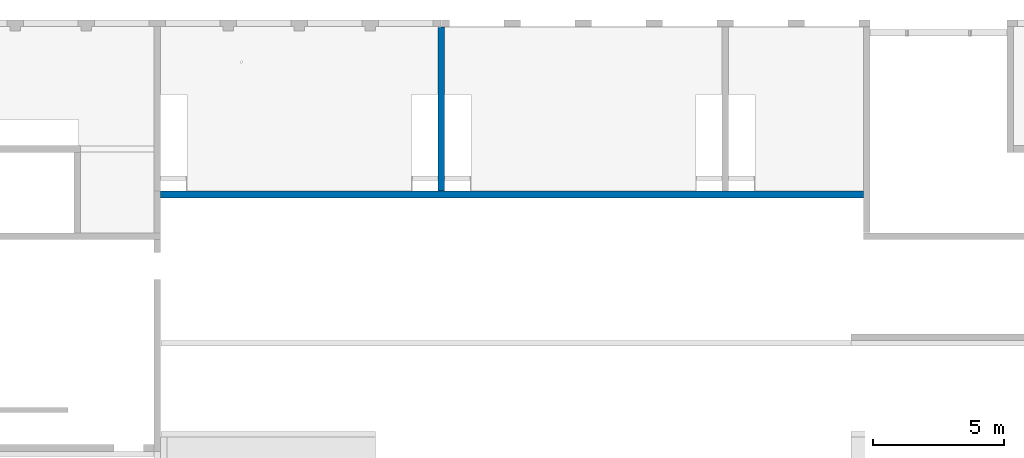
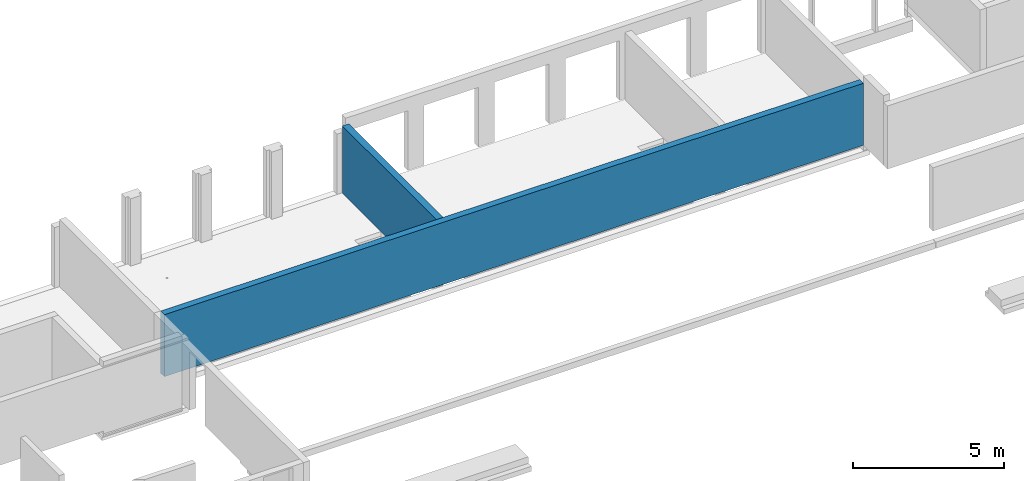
# One storey, part 11 of 18: 2 walls.
"""IFC2X3 building model written with IfcOpenShell, lengths in millimetres."""

from ifc_helpers import new_model, entity, si_unit, converted_unit, derived_unit, direction, frame, frame_2d, origin, place, context, subcontext, project, spatial, polyline, rectangle, extrude, clip, bounded_halfspace, material, layer, layer_set, layer_usage, type_object, element, save


model = new_model("IFC2X3")

# Units and contexts
model_context = context("Model", 3, precision=0.01, world=origin(), true_north=direction((6.12303176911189e-17, 1.0)))
body_context = subcontext(model_context, "Body", "Model", "MODEL_VIEW")
ifc_project = project(units=[si_unit("LENGTHUNIT", "METRE", prefix="MILLI"), si_unit("AREAUNIT", "SQUARE_METRE"), si_unit("VOLUMEUNIT", "CUBIC_METRE"), converted_unit("PLANEANGLEUNIT", "DEGREE", entity("IfcRatioMeasure", 0.0174532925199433), si_unit("PLANEANGLEUNIT", "RADIAN"), dimensions=[0, 0, 0, 0, 0, 0, 0]), si_unit("MASSUNIT", "GRAM", prefix="KILO"), derived_unit("MASSDENSITYUNIT", [(si_unit("MASSUNIT", "GRAM", prefix="KILO"), 1), (si_unit("LENGTHUNIT", "METRE"), -3)]), si_unit("TIMEUNIT", "SECOND"), si_unit("FREQUENCYUNIT", "HERTZ"), si_unit("THERMODYNAMICTEMPERATUREUNIT", "DEGREE_CELSIUS"), derived_unit("THERMALTRANSMITTANCEUNIT", [(si_unit("MASSUNIT", "GRAM", prefix="KILO"), 1), (si_unit("THERMODYNAMICTEMPERATUREUNIT", "KELVIN"), -1), (si_unit("TIMEUNIT", "SECOND"), -3)]), derived_unit("VOLUMETRICFLOWRATEUNIT", [(si_unit("LENGTHUNIT", "METRE"), 3), (si_unit("TIMEUNIT", "SECOND"), -1)]), si_unit("ELECTRICCURRENTUNIT", "AMPERE"), si_unit("ELECTRICVOLTAGEUNIT", "VOLT"), si_unit("POWERUNIT", "WATT"), si_unit("FORCEUNIT", "NEWTON", prefix="KILO"), si_unit("ILLUMINANCEUNIT", "LUX"), si_unit("LUMINOUSFLUXUNIT", "LUMEN"), si_unit("LUMINOUSINTENSITYUNIT", "CANDELA"), derived_unit("USERDEFINED", [(si_unit("MASSUNIT", "GRAM", prefix="KILO"), -1), (si_unit("LENGTHUNIT", "METRE"), -2), (si_unit("TIMEUNIT", "SECOND"), 3), (si_unit("LUMINOUSFLUXUNIT", "LUMEN"), 1)]), derived_unit("LINEARVELOCITYUNIT", [(si_unit("LENGTHUNIT", "METRE"), 1), (si_unit("TIMEUNIT", "SECOND"), -1)]), si_unit("PRESSUREUNIT", "PASCAL"), derived_unit("USERDEFINED", [(si_unit("LENGTHUNIT", "METRE"), -2), (si_unit("MASSUNIT", "GRAM", prefix="KILO"), 1), (si_unit("TIMEUNIT", "SECOND"), -2)])], contexts=[model_context])

# Site, building, storey
site_placement = place(None, origin())
site = spatial("IfcSite", under=ifc_project, at=site_placement, Name="Default", CompositionType="ELEMENT")
building_placement = place(site_placement, origin())
building = spatial("IfcBuilding", under=site, at=building_placement, Name="niet gebruiken", CompositionType="ELEMENT")
storey_placement = place(building_placement, frame((0.0, 0.0, 3690.0)))
storey = spatial("IfcBuildingStorey", under=building, at=storey_placement, Name="01 eerste verdieping", CompositionType="ELEMENT", Elevation=3690.00000000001)

# Walls
ifc_material = material(Name="NLRS_f2_beton ihwg")
ifc_layer = layer(ifc_material, 250.0)
ifc_layer_set = layer_set([ifc_layer], Name="Basic Wall:NLRS_22.21_WA_beton ihwg d=250_gen")
ifc_layer_usage_1 = layer_usage(ifc_layer_set, "AXIS2", "NEGATIVE", 125.0)
wall_type = type_object("IfcWallType", Name="Basic Wall:NLRS_22.21_WA_beton ihwg d=250_gen", PredefinedType="STANDARD", material=ifc_layer_set)
wall_1_placement = place(storey_placement, frame((59400.0, 46746.0, -90.0), z_axis=(0.0, 0.0, 1.0), x_axis=(0.0, 1.0, 0.0)))
element("IfcWallStandardCase", 1, at=wall_1_placement, inside=storey, type_object=wall_type, material=ifc_layer_usage_1, Name="Basic Wall:NLRS_22.21_WA_beton ihwg d=250_gen", ObjectType="Basic Wall:NLRS_22.21_WA_beton ihwg d=250_gen", context=body_context, shape_type="SweptSolid", body=[
    extrude(rectangle(XDim=6239.99999999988, YDim=249.999999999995, at=frame_2d((3119.99999999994, 1.06581410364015e-12), x_axis=(-1.0, 0.0))), origin(), (0.0, 0.0, 1.0), 2720.00000000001),
])
ifc_layer_usage_2 = layer_usage(ifc_layer_set, "AXIS2", "NEGATIVE", 125.0)
wall_2_placement = place(storey_placement, frame((75450.0, 46621.0, 120.0), z_axis=(0.0, 0.0, 1.0), x_axis=(-1.0, 0.0, 0.0)))
element("IfcWallStandardCase", 2, at=wall_2_placement, inside=storey, type_object=wall_type, material=ifc_layer_usage_2, Name="Basic Wall:NLRS_22.21_WA_beton ihwg d=250_gen", ObjectType="Basic Wall:NLRS_22.21_WA_beton ihwg d=250_gen", context=body_context, shape_type="Clipping", body=[
    clip(clip(extrude(rectangle(XDim=26725.0, YDim=249.999999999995, at=frame_2d((13362.5, -9.87654402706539e-13), x_axis=(-1.0, 0.0))), origin(), (0.0, 0.0, 1.0), 2509.99999999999), bounded_halfspace(frame((26725.0, -125.0, 0.0), z_axis=(0.0, 0.0, 1.0), x_axis=(-1.0, 0.0, 0.0)), True, frame((26725.0, -125.0, 0.0), z_axis=(0.0, 0.0, 1.0), x_axis=(-1.0, 0.0, 0.0)), polyline([(0.0, 0.0), (0.0, -250.0), (26725.0, -250.0), (26725.0, 0.0), (0.0, 0.0)]))), bounded_halfspace(frame((25755.0, -125.0, 2510.0), z_axis=(0.0, 0.0, -1.0), x_axis=(0.0, 1.0, 0.0)), True, frame((25755.0, -125.0, 2510.0), z_axis=(0.0, 0.0, -1.0), x_axis=(0.0, 1.0, 0.0)), polyline([(0.0, 0.0), (0.0, -8610.0), (0.0, -9580.0), (0.0, -9830.0), (0.0, -10800.0), (0.0, -19410.0), (0.0, -20380.0), (0.0, -20630.0), (0.0, -21600.0), (0.0, -25755.0), (250.0, -25755.0), (250.0, 970.0), (0.0, 970.0), (0.0, 0.0)]))),
])

save(model, "model.ifc")
